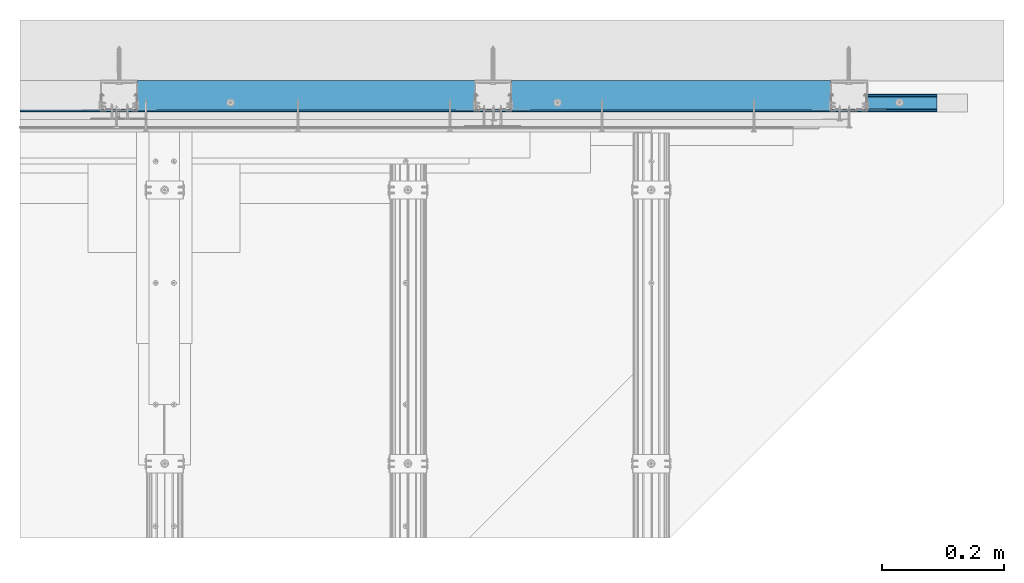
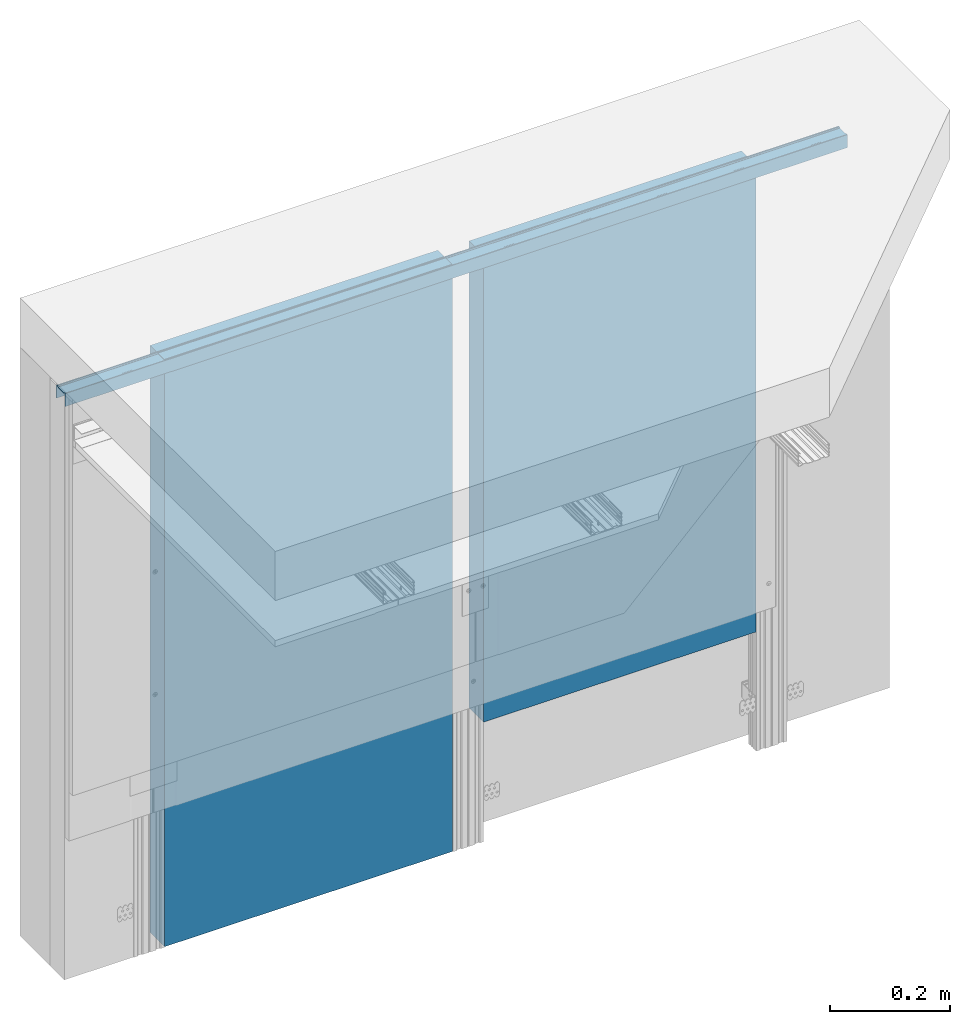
# One storey, part 31 of 62: 3 walls.
"""IFC2X3 building model written with IfcOpenShell, lengths in millimetres."""

from ifc_helpers import new_model, entity, si_unit, converted_unit, direction, frame, origin, origin_with_axes, place, context, project, spatial, faceted_brep, element, save


model = new_model("IFC2X3")

# Units and contexts
model_context = context("Model", 3, precision=1e-05, world=origin(), true_north=direction((0.0, 1.0, 0.0)))
ifc_project = project(units=[si_unit("LENGTHUNIT", "METRE", prefix="MILLI"), si_unit("AREAUNIT", "SQUARE_METRE"), si_unit("VOLUMEUNIT", "CUBIC_METRE"), converted_unit("PLANEANGLEUNIT", "DEGREE", entity("IfcPlaneAngleMeasure", 0.01745), si_unit("PLANEANGLEUNIT", "RADIAN"), dimensions=[0, 0, 0, 0, 0, 0, 0]), si_unit("SOLIDANGLEUNIT", "STERADIAN"), si_unit("MASSUNIT", "GRAM"), si_unit("TIMEUNIT", "SECOND"), si_unit("THERMODYNAMICTEMPERATUREUNIT", "DEGREE_CELSIUS"), si_unit("LUMINOUSINTENSITYUNIT", "LUMEN")], contexts=[model_context])

# Site, building, storey
site_placement = place(None, origin_with_axes())
site = spatial("IfcSite", under=ifc_project, at=site_placement, Name="Default Site", CompositionType="ELEMENT")
building_placement = place(site_placement, origin_with_axes())
building = spatial("IfcBuilding", under=site, at=building_placement, Name="Default Building", CompositionType="ELEMENT")
storey_placement = place(building_placement, origin_with_axes())
storey = spatial("IfcBuildingStorey", under=building, at=storey_placement, Name="Default Building Storey", CompositionType="ELEMENT", Elevation=0.0)

# Walls
wall_1_placement = place(storey_placement, frame((2752.576545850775, 5350.424146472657, 1395.352084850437), z_axis=(0.0, 0.0, -1.0), x_axis=(-1.0, 4.718447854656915e-16, 0.0)))
element("IfcWall", 1, at=wall_1_placement, inside=storey, Name="Wypełnienie wełny mineralnej szklanej lub skalnej ISOVER", context=model_context, shape_type="Brep", body=[
    faceted_brep([(-180.4605405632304, -3327.645535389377, 10.28402578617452), (-180.4605405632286, -3376.283223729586, 10.28402578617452), (-180.4605405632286, -3376.283223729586, 961.5435974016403), (-180.4605405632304, -3327.645535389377, 961.5435974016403), (-705.460540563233, -3376.28322372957, 961.5435974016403), (-705.460540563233, -3376.28322372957, 10.28402578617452), (-705.4605405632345, -3327.645535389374, 961.5435974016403), (-705.4605405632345, -3327.645535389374, 10.28402578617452)], [[[0, 1, 2, 3]], [[4, 2, 1, 5]], [[6, 4, 5, 7]], [[5, 1, 0, 7]], [[6, 3, 2, 4]], [[7, 0, 3, 6]]]),
])
wall_2_placement = place(storey_placement, frame((2184.912306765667, 5350.424146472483, 1395.654775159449), z_axis=(0.0, 0.0, -1.0), x_axis=(-1.0, 4.718447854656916e-16, 0.0)))
element("IfcWall", 2, at=wall_2_placement, inside=storey, Name="Wypełnienie wełny mineralnej szklanej lub skalnej ISOVER", context=model_context, shape_type="Brep", body=[
    faceted_brep([(-133.2122568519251, -3327.645535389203, 8.202690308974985), (-133.2122568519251, -3327.645535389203, 1204.169500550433), (-688.1247796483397, -3327.645535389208, 1204.169500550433), (-688.1247796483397, -3327.645535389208, 8.20269030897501), (-688.124779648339, -3376.283223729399, 1204.169500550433), (-133.2122568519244, -3376.283223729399, 1204.169500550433), (-133.2122568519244, -3376.283223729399, 8.202690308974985), (-688.124779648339, -3376.283223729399, 8.20269030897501)], [[[0, 1, 2, 3]], [[4, 5, 6, 7]], [[2, 4, 7, 3]], [[6, 0, 3, 7]], [[4, 2, 1, 5]], [[5, 1, 0, 6]]]),
])
wall_3_placement = place(storey_placement, frame((5001.187254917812, 3469.792279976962, 1502.399461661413), z_axis=(-6.754789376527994e-14, -6.858158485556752e-13, -1.0), x_axis=(-1.0, -1.816065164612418e-15, 8.596431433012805e-14)))
element("IfcWall", 3, at=wall_3_placement, inside=storey, Name="Profil RIGIPS UD30 ULTRASTIL®", context=model_context, shape_type="Brep", body=[
    faceted_brep([(2876.162121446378, -1469.916032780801, 140.9749999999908), (2876.162121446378, -1469.366032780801, 140.9749999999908), (2876.162121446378, -1469.366032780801, 114.774999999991), (2876.162121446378, -1469.375882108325, 114.6498524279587), (2876.162121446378, -1469.405187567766, 114.5277864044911), (2876.162121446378, -1469.453227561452, 114.4118076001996), (2876.162121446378, -1469.518819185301, 114.3047717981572), (2876.162121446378, -1469.600347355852, 114.2093145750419), (2876.162121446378, -1469.695804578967, 114.1277864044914), (2876.162121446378, -1469.80284038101, 114.0621947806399), (2876.162121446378, -1469.918819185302, 114.0141547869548), (2876.162121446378, -1470.04088520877, 113.9848493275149), (2876.162121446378, -1470.166032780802, 113.9749999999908), (2876.162121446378, -1472.016032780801, 113.9749999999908), (2876.162121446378, -1472.163550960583, 113.9887186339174), (2876.162121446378, -1472.3060097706, 114.0294040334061), (2876.162121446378, -1472.438523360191, 114.0956608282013), (2876.162121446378, -1472.55654696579, 114.1852166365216), (2876.162121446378, -1472.6560327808, 114.2949999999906), (2876.162121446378, -1473.676032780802, 115.6549999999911), (2876.162121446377, -1473.775518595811, 115.7647833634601), (2876.162121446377, -1473.893542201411, 115.8543391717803), (2876.162121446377, -1474.026055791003, 115.9205959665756), (2876.162121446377, -1474.16851460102, 115.9612813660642), (2876.162121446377, -1474.316032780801, 115.9749999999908), (2876.162121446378, -1493.616032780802, 115.9749999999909), (2876.162121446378, -1493.763550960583, 115.9612813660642), (2876.162121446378, -1493.906009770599, 115.9205959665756), (2876.162121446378, -1494.03852336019, 115.8543391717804), (2876.162121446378, -1494.15654696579, 115.7647833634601), (2876.162121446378, -1494.256032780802, 115.6549999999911), (2876.162121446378, -1495.276032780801, 114.2949999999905), (2876.162121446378, -1495.375518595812, 114.1852166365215), (2876.162121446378, -1495.493542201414, 114.0956608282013), (2876.162121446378, -1495.626055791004, 114.0294040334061), (2876.162121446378, -1495.76851460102, 113.9887186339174), (2876.162121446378, -1495.916032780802, 113.9749999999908), (2876.162121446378, -1497.766032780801, 113.9749999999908), (2876.162121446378, -1497.891180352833, 113.9848493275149), (2876.162121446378, -1498.013246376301, 114.0141547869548), (2876.162121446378, -1498.129225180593, 114.0621947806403), (2876.162121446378, -1498.236260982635, 114.127786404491), (2876.162121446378, -1498.33171820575, 114.2093145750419), (2876.162121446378, -1498.413246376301, 114.3047717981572), (2876.162121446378, -1498.478838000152, 114.4118076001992), (2876.162121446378, -1498.526877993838, 114.5277864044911), (2876.162121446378, -1498.556183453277, 114.6498524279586), (2876.162121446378, -1498.566032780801, 114.774999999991), (2876.162121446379, -1498.566032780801, 140.9749999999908), (2876.162121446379, -1498.0160327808, 140.9749999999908), (2876.162121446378, -1498.0160327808, 114.774999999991), (2876.162121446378, -1498.012954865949, 114.7358913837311), (2876.162121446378, -1498.003796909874, 114.6977457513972), (2876.162121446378, -1497.988784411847, 114.661502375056), (2876.162121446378, -1497.968287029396, 114.6280536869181), (2876.162121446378, -1497.942809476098, 114.5982233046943), (2876.162121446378, -1497.912979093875, 114.5727457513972), (2876.162121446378, -1497.879530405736, 114.5522483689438), (2876.162121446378, -1497.843287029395, 114.5372358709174), (2876.162121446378, -1497.805141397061, 114.528077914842), (2876.162121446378, -1497.766032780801, 114.524999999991), (2876.162121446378, -1495.916032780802, 114.524999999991), (2876.162121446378, -1495.86993334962, 114.5292870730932), (2876.162121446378, -1495.82541497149, 114.5420012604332), (2876.162121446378, -1495.784004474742, 114.562706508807), (2876.162121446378, -1495.747122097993, 114.5906926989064), (2876.162121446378, -1495.716032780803, 114.6249999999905), (2876.162121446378, -1494.696032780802, 115.9849999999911), (2876.162121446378, -1494.528150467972, 116.1702594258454), (2876.162121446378, -1494.32898563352, 116.3213848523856), (2876.162121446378, -1494.105368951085, 116.4331931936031), (2876.162121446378, -1493.864969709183, 116.5018498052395), (2876.162121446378, -1493.616032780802, 116.5249999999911), (2876.162121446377, -1474.316032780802, 116.524999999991), (2876.162121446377, -1474.06709585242, 116.5018498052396), (2876.162121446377, -1473.826696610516, 116.4331931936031), (2876.162121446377, -1473.603079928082, 116.3213848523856), (2876.162121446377, -1473.403915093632, 116.1702594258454), (2876.162121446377, -1473.236032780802, 115.984999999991), (2876.162121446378, -1472.216032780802, 114.6249999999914), (2876.162121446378, -1472.184943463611, 114.5906926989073), (2876.162121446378, -1472.14806108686, 114.562706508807), (2876.162121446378, -1472.106650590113, 114.5420012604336), (2876.162121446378, -1472.062132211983, 114.5292870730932), (2876.162121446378, -1472.016032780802, 114.524999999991), (2876.162121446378, -1470.166032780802, 114.524999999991), (2876.162121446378, -1470.126924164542, 114.528077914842), (2876.162121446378, -1470.088778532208, 114.5372358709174), (2876.162121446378, -1470.052535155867, 114.5522483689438), (2876.162121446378, -1470.019086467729, 114.5727457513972), (2876.162121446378, -1469.989256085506, 114.5982233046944), (2876.162121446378, -1469.963778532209, 114.6280536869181), (2876.162121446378, -1469.943281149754, 114.661502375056), (2876.162121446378, -1469.928268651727, 114.6977457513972), (2876.162121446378, -1469.919110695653, 114.7358913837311), (2876.162121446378, -1469.916032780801, 114.774999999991), (1368.501210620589, -1469.366032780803, 114.7750000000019), (1368.50121062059, -1469.366032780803, 140.9750000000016), (1368.50121062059, -1469.916032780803, 140.9750000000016), (1368.501210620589, -1469.916032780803, 114.7750000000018), (1368.501210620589, -1469.919110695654, 114.7358913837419), (1368.501210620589, -1469.92826865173, 114.697745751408), (1368.501210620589, -1469.943281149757, 114.6615023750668), (1368.501210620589, -1469.963778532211, 114.6280536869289), (1368.501210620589, -1469.989256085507, 114.5982233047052), (1368.501210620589, -1470.019086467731, 114.572745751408), (1368.501210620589, -1470.052535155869, 114.5522483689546), (1368.501210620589, -1470.08877853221, 114.5372358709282), (1368.501210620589, -1470.126924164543, 114.5280779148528), (1368.501210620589, -1470.166032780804, 114.5250000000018), (1368.501210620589, -1472.016032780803, 114.5250000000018), (1368.501210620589, -1472.062132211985, 114.5292870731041), (1368.501210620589, -1472.106650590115, 114.5420012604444), (1368.501210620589, -1472.148061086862, 114.5627065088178), (1368.501210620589, -1472.184943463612, 114.5906926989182), (1368.501210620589, -1472.216032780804, 114.6250000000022), (1368.501210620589, -1473.236032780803, 115.9850000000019), (1368.501210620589, -1473.403915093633, 116.1702594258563), (1368.50121062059, -1473.603079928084, 116.3213848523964), (1368.50121062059, -1473.826696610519, 116.4331931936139), (1368.50121062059, -1474.067095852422, 116.5018498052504), (1368.50121062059, -1474.316032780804, 116.5250000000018), (1368.50121062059, -1493.616032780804, 116.5250000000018), (1368.50121062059, -1493.864969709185, 116.5018498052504), (1368.50121062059, -1494.105368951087, 116.4331931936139), (1368.50121062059, -1494.328985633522, 116.3213848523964), (1368.501210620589, -1494.528150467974, 116.1702594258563), (1368.501210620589, -1494.696032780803, 115.9850000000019), (1368.501210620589, -1495.716032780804, 114.6250000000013), (1368.501210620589, -1495.747122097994, 114.5906926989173), (1368.501210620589, -1495.784004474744, 114.5627065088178), (1368.501210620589, -1495.825414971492, 114.542001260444), (1368.501210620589, -1495.869933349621, 114.529287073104), (1368.501210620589, -1495.916032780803, 114.5250000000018), (1368.501210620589, -1497.766032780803, 114.5250000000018), (1368.501210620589, -1497.805141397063, 114.5280779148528), (1368.501210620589, -1497.843287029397, 114.5372358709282), (1368.501210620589, -1497.879530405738, 114.5522483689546), (1368.501210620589, -1497.912979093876, 114.572745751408), (1368.501210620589, -1497.9428094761, 114.5982233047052), (1368.501210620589, -1497.968287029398, 114.6280536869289), (1368.501210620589, -1497.98878441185, 114.6615023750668), (1368.501210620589, -1498.003796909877, 114.697745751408), (1368.501210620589, -1498.012954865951, 114.7358913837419), (1368.501210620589, -1498.016032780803, 114.7750000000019), (1368.50121062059, -1498.016032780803, 140.9750000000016), (1368.50121062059, -1498.566032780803, 140.9750000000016), (1368.501210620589, -1498.566032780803, 114.7750000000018), (1368.501210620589, -1498.556183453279, 114.6498524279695), (1368.501210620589, -1498.526877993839, 114.5277864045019), (1368.501210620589, -1498.478838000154, 114.41180760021), (1368.501210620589, -1498.413246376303, 114.304771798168), (1368.501210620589, -1498.331718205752, 114.2093145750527), (1368.501210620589, -1498.236260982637, 114.1277864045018), (1368.501210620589, -1498.129225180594, 114.0621947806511), (1368.501210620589, -1498.013246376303, 114.0141547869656), (1368.501210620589, -1497.891180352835, 113.9848493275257), (1368.501210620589, -1497.766032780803, 113.9750000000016), (1368.501210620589, -1495.916032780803, 113.9750000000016), (1368.501210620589, -1495.768514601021, 113.9887186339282), (1368.501210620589, -1495.626055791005, 114.0294040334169), (1368.501210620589, -1495.493542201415, 114.0956608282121), (1368.501210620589, -1495.375518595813, 114.1852166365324), (1368.501210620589, -1495.276032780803, 114.2950000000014), (1368.501210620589, -1494.256032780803, 115.6550000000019), (1368.501210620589, -1494.156546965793, 115.7647833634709), (1368.501210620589, -1494.038523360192, 115.8543391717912), (1368.501210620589, -1493.906009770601, 115.9205959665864), (1368.501210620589, -1493.763550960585, 115.9612813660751), (1368.501210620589, -1493.616032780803, 115.9750000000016), (1368.501210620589, -1474.316032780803, 115.9750000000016), (1368.501210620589, -1474.168514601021, 115.9612813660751), (1368.501210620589, -1474.026055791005, 115.9205959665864), (1368.501210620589, -1473.893542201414, 115.8543391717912), (1368.501210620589, -1473.775518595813, 115.7647833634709), (1368.501210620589, -1473.676032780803, 115.655000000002), (1368.501210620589, -1472.656032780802, 114.2950000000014), (1368.501210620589, -1472.556546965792, 114.1852166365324), (1368.501210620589, -1472.438523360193, 114.0956608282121), (1368.501210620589, -1472.306009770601, 114.0294040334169), (1368.501210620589, -1472.163550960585, 113.9887186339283), (1368.501210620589, -1472.016032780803, 113.9750000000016), (1368.501210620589, -1470.166032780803, 113.9750000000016), (1368.501210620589, -1470.040885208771, 113.9848493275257), (1368.501210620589, -1469.918819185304, 114.0141547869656), (1368.501210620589, -1469.802840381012, 114.0621947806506), (1368.501210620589, -1469.695804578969, 114.1277864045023), (1368.501210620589, -1469.600347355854, 114.2093145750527), (1368.501210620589, -1469.518819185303, 114.304771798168), (1368.501210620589, -1469.453227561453, 114.4118076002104), (1368.501210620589, -1469.405187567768, 114.5277864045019), (1368.501210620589, -1469.375882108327, 114.6498524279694)], [[[0, 1, 2, 3, 4, 5, 6, 7, 8, 9, 10, 11, 12, 13, 14, 15, 16, 17, 18, 19, 20, 21, 22, 23, 24, 25, 26, 27, 28, 29, 30, 31, 32, 33, 34, 35, 36, 37, 38, 39, 40, 41, 42, 43, 44, 45, 46, 47, 48, 49, 50, 51, 52, 53, 54, 55, 56, 57, 58, 59, 60, 61, 62, 63, 64, 65, 66, 67, 68, 69, 70, 71, 72, 73, 74, 75, 76, 77, 78, 79, 80, 81, 82, 83, 84, 85, 86, 87, 88, 89, 90, 91, 92, 93, 94, 95]], [[96, 97, 98, 99, 100, 101, 102, 103, 104, 105, 106, 107, 108, 109, 110, 111, 112, 113, 114, 115, 116, 117, 118, 119, 120, 121, 122, 123, 124, 125, 126, 127, 128, 129, 130, 131, 132, 133, 134, 135, 136, 137, 138, 139, 140, 141, 142, 143, 144, 145, 146, 147, 148, 149, 150, 151, 152, 153, 154, 155, 156, 157, 158, 159, 160, 161, 162, 163, 164, 165, 166, 167, 168, 169, 170, 171, 172, 173, 174, 175, 176, 177, 178, 179, 180, 181, 182, 183, 184, 185, 186, 187, 188, 189, 190, 191]], [[23, 171, 170, 24]], [[22, 172, 171, 23]], [[175, 174, 20, 19]], [[172, 22, 21, 173]], [[20, 174, 173, 21]], [[24, 170, 169, 25]], [[29, 165, 164, 30]], [[165, 29, 28, 166]], [[27, 167, 166, 28]], [[169, 168, 26, 25]], [[26, 168, 167, 27]], [[30, 164, 163, 31]], [[35, 159, 158, 36]], [[34, 160, 159, 35]], [[33, 32, 162, 161]], [[161, 160, 34, 33]], [[163, 162, 32, 31]], [[36, 158, 157, 37]], [[46, 45, 149, 148]], [[148, 147, 47, 46]], [[44, 150, 149, 45]], [[43, 42, 152, 151]], [[151, 150, 44, 43]], [[41, 40, 154, 153]], [[153, 152, 42, 41]], [[39, 155, 154, 40]], [[38, 37, 157, 156]], [[156, 155, 39, 38]], [[47, 147, 146, 48]], [[48, 146, 145, 49]], [[49, 145, 144, 50]], [[134, 60, 59, 135]], [[58, 136, 135, 59]], [[57, 137, 136, 58]], [[137, 57, 56, 138]], [[55, 139, 138, 56]], [[139, 55, 54, 140]], [[53, 141, 140, 54]], [[52, 142, 141, 53]], [[142, 52, 51, 143]], [[50, 144, 143, 51]], [[60, 134, 133, 61]], [[65, 129, 128, 66]], [[129, 65, 64, 130]], [[63, 131, 130, 64]], [[133, 132, 62, 61]], [[62, 132, 131, 63]], [[66, 128, 127, 67]], [[71, 123, 122, 72]], [[70, 69, 125, 124]], [[124, 123, 71, 70]], [[68, 126, 125, 69]], [[127, 126, 68, 67]], [[72, 122, 121, 73]], [[77, 117, 116, 78]], [[76, 118, 117, 77]], [[75, 74, 120, 119]], [[119, 118, 76, 75]], [[121, 120, 74, 73]], [[78, 116, 115, 79]], [[83, 111, 110, 84]], [[82, 112, 111, 83]], [[115, 114, 80, 79]], [[112, 82, 81, 113]], [[80, 114, 113, 81]], [[84, 110, 109, 85]], [[99, 95, 94, 100]], [[93, 101, 100, 94]], [[92, 102, 101, 93]], [[102, 92, 91, 103]], [[90, 104, 103, 91]], [[104, 90, 89, 105]], [[88, 106, 105, 89]], [[87, 107, 106, 88]], [[107, 87, 86, 108]], [[85, 109, 108, 86]], [[95, 99, 98, 0]], [[0, 98, 97, 1]], [[1, 97, 96, 2]], [[11, 10, 184, 183]], [[183, 182, 12, 11]], [[9, 185, 184, 10]], [[6, 5, 189, 188]], [[7, 6, 188, 187]], [[8, 7, 187, 186]], [[186, 185, 9, 8]], [[4, 190, 189, 5]], [[3, 2, 96, 191]], [[191, 190, 4, 3]], [[12, 182, 181, 13]], [[17, 177, 176, 18]], [[16, 15, 179, 178]], [[178, 177, 17, 16]], [[14, 180, 179, 15]], [[181, 180, 14, 13]], [[18, 176, 175, 19]]]),
])

save(model, "model.ifc")
